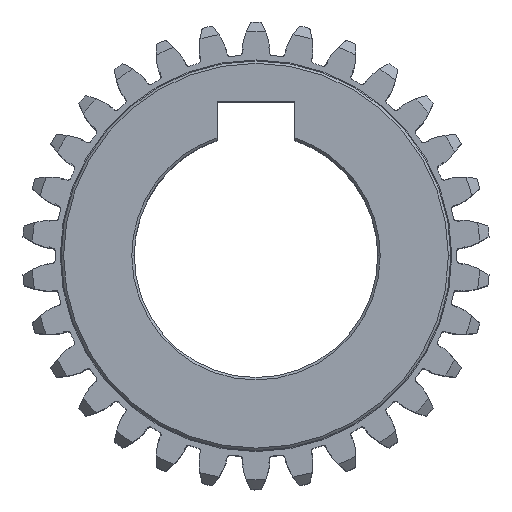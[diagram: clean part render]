
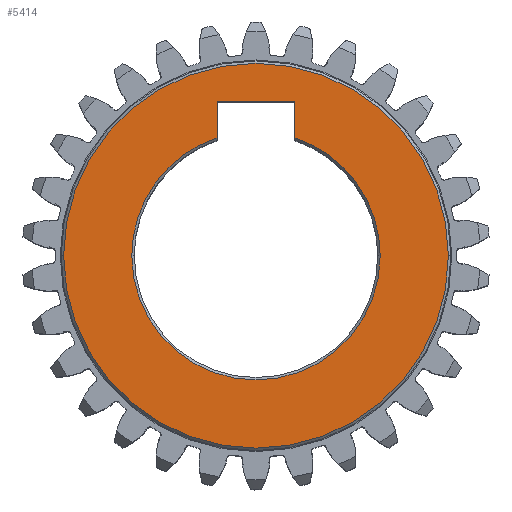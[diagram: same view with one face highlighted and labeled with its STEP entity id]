
A CAD part, top view. The second image highlights one B-rep face of the part: STEP entity #5414.
In plain terms, the highlighted planar face has unit normal (0, 0, 1).
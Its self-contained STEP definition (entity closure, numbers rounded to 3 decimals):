
#349 = LINE ( 'NONE', #16825, #14398 ) ;
#576 = VERTEX_POINT ( 'NONE', #2947 ) ;
#577 = CARTESIAN_POINT ( 'NONE',  ( 0., 0., 15. ) ) ;
#632 = DIRECTION ( 'NONE',  ( 1., 0., 0. ) ) ;
#1702 = CIRCLE ( 'NONE', #7296, 12.75 ) ;
#2308 = EDGE_CURVE ( 'NONE', #7977, #13123, #349, .T. ) ;
#2351 = DIRECTION ( 'NONE',  ( 1., 0., 0. ) ) ;
#2434 = ORIENTED_EDGE ( 'NONE', *, *, #11928, .T. ) ;
#2530 = VERTEX_POINT ( 'NONE', #14120 ) ;
#2947 = CARTESIAN_POINT ( 'NONE',  ( -12.75, 0., 15. ) ) ;
#3028 = CARTESIAN_POINT ( 'NONE',  ( -4., 15.8, 15. ) ) ;
#3055 = PLANE ( 'NONE',  #8977 ) ;
#3145 = ORIENTED_EDGE ( 'NONE', *, *, #6009, .T. ) ;
#3304 = CARTESIAN_POINT ( 'NONE',  ( 4., 12.106, 15. ) ) ;
#3354 = CARTESIAN_POINT ( 'NONE',  ( 19.75, 0., 15. ) ) ;
#3628 = CIRCLE ( 'NONE', #17444, 12.75 ) ;
#3670 = DIRECTION ( 'NONE',  ( 1., 0., 0. ) ) ;
#3678 = CIRCLE ( 'NONE', #9568, 19.75 ) ;
#3807 = LINE ( 'NONE', #10815, #7993 ) ;
#3895 = DIRECTION ( 'NONE',  ( 0., -1., 0. ) ) ;
#4201 = CARTESIAN_POINT ( 'NONE',  ( 0., 0., 15. ) ) ;
#4433 = EDGE_CURVE ( 'NONE', #10111, #2530, #7601, .T. ) ;
#4662 = DIRECTION ( 'NONE',  ( 1., 0., 0. ) ) ;
#4722 = DIRECTION ( 'NONE',  ( 1., 0., 0. ) ) ;
#4781 = LINE ( 'NONE', #10411, #11831 ) ;
#5050 = EDGE_CURVE ( 'NONE', #13397, #15414, #3807, .T. ) ;
#5236 = AXIS2_PLACEMENT_3D ( 'NONE', #9198, #11785, #3670 ) ;
#5414 = ADVANCED_FACE ( 'NONE', ( #9967, #11445 ), #3055, .T. ) ;
#6009 = EDGE_CURVE ( 'NONE', #2530, #10111, #3678, .T. ) ;
#6201 = DIRECTION ( 'NONE',  ( 0., 0., -1. ) ) ;
#6585 = CARTESIAN_POINT ( 'NONE',  ( 0., 0., 15. ) ) ;
#6758 = EDGE_LOOP ( 'NONE', ( #10771, #11408, #15616, #2434, #8331, #10766 ) ) ;
#7133 = EDGE_LOOP ( 'NONE', ( #3145, #8934 ) ) ;
#7296 = AXIS2_PLACEMENT_3D ( 'NONE', #577, #6201, #4722 ) ;
#7322 = VERTEX_POINT ( 'NONE', #16738 ) ;
#7601 = CIRCLE ( 'NONE', #5236, 19.75 ) ;
#7691 = EDGE_CURVE ( 'NONE', #13123, #13397, #4781, .T. ) ;
#7977 = VERTEX_POINT ( 'NONE', #14615 ) ;
#7993 = VECTOR ( 'NONE', #3895, 1000. ) ;
#8331 = ORIENTED_EDGE ( 'NONE', *, *, #2308, .T. ) ;
#8432 = DIRECTION ( 'NONE',  ( 1., 0., 0. ) ) ;
#8454 = CIRCLE ( 'NONE', #14650, 12.75 ) ;
#8934 = ORIENTED_EDGE ( 'NONE', *, *, #4433, .T. ) ;
#8977 = AXIS2_PLACEMENT_3D ( 'NONE', #14198, #15385, #11164 ) ;
#9198 = CARTESIAN_POINT ( 'NONE',  ( 0., 0., 15. ) ) ;
#9568 = AXIS2_PLACEMENT_3D ( 'NONE', #4201, #15434, #8432 ) ;
#9967 = FACE_OUTER_BOUND ( 'NONE', #7133, .T. ) ;
#10111 = VERTEX_POINT ( 'NONE', #3354 ) ;
#10411 = CARTESIAN_POINT ( 'NONE',  ( 4., 15.8, 15. ) ) ;
#10748 = EDGE_CURVE ( 'NONE', #7322, #576, #3628, .T. ) ;
#10766 = ORIENTED_EDGE ( 'NONE', *, *, #7691, .T. ) ;
#10771 = ORIENTED_EDGE ( 'NONE', *, *, #5050, .T. ) ;
#10815 = CARTESIAN_POINT ( 'NONE',  ( 4., 9.2, 15. ) ) ;
#11164 = DIRECTION ( 'NONE',  ( 1., 0., 0. ) ) ;
#11408 = ORIENTED_EDGE ( 'NONE', *, *, #12226, .T. ) ;
#11445 = FACE_BOUND ( 'NONE', #6758, .T. ) ;
#11669 = CARTESIAN_POINT ( 'NONE',  ( 0., 0., 15. ) ) ;
#11785 = DIRECTION ( 'NONE',  ( 0., 0., 1. ) ) ;
#11814 = CARTESIAN_POINT ( 'NONE',  ( 4., 15.8, 15. ) ) ;
#11831 = VECTOR ( 'NONE', #632, 1000. ) ;
#11928 = EDGE_CURVE ( 'NONE', #576, #7977, #8454, .T. ) ;
#12226 = EDGE_CURVE ( 'NONE', #15414, #7322, #1702, .T. ) ;
#12691 = DIRECTION ( 'NONE',  ( 0., 1., 0. ) ) ;
#13123 = VERTEX_POINT ( 'NONE', #3028 ) ;
#13397 = VERTEX_POINT ( 'NONE', #11814 ) ;
#14120 = CARTESIAN_POINT ( 'NONE',  ( -19.75, 0., 15. ) ) ;
#14198 = CARTESIAN_POINT ( 'NONE',  ( 0., 0., 15. ) ) ;
#14398 = VECTOR ( 'NONE', #12691, 1000. ) ;
#14615 = CARTESIAN_POINT ( 'NONE',  ( -4., 12.106, 15. ) ) ;
#14650 = AXIS2_PLACEMENT_3D ( 'NONE', #6585, #17983, #2351 ) ;
#15385 = DIRECTION ( 'NONE',  ( 0., 0., 1. ) ) ;
#15414 = VERTEX_POINT ( 'NONE', #3304 ) ;
#15434 = DIRECTION ( 'NONE',  ( 0., 0., 1. ) ) ;
#15616 = ORIENTED_EDGE ( 'NONE', *, *, #10748, .T. ) ;
#16738 = CARTESIAN_POINT ( 'NONE',  ( 12.75, 0., 15. ) ) ;
#16825 = CARTESIAN_POINT ( 'NONE',  ( -4., 9.2, 15. ) ) ;
#17274 = DIRECTION ( 'NONE',  ( 0., 0., -1. ) ) ;
#17444 = AXIS2_PLACEMENT_3D ( 'NONE', #11669, #17274, #4662 ) ;
#17983 = DIRECTION ( 'NONE',  ( 0., 0., -1. ) ) ;
